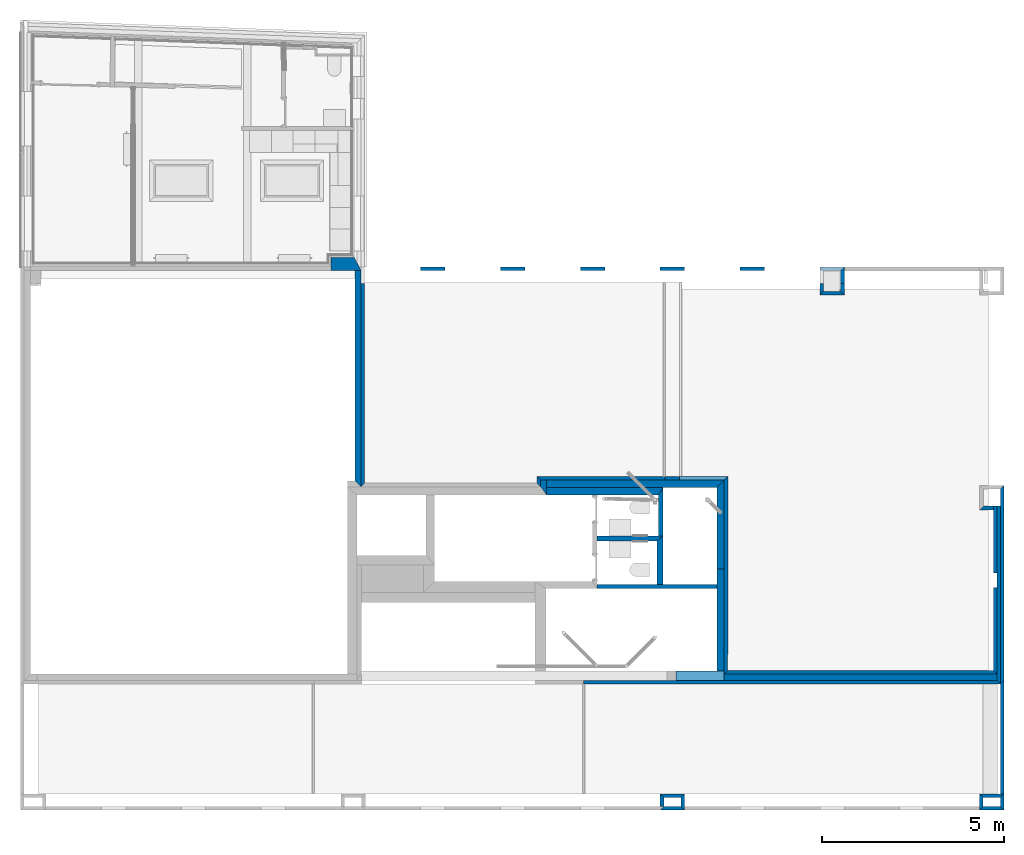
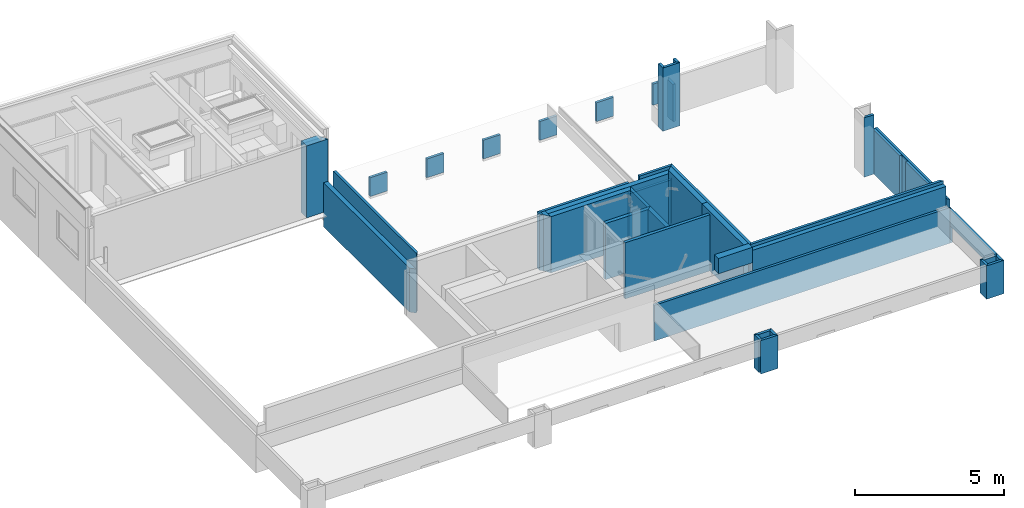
# One storey, part 3 of 23: 45 walls.
"""IFC2X3 building model written with IfcOpenShell, lengths in metres."""

import ifcopenshell
import ifcopenshell.guid

model = None  # the IFC model being written
_history = None  # IfcOwnerHistory: only IFC2X3 demands one
_inside = {}  # id of a spatial element -> (the spatial element, [elements in it])
_under = {}  # id of a project, library or spatial element -> (it, [spatial elements below it])
_declared = {}  # id of a project -> (the project, [libraries it declares])
_typed = {}  # id of a type object -> (the type object, [elements of that type])
_made_of = {}  # id of a material, layer set ... -> (it, [elements and type objects made of it])


def new_model(schema):
    """Start an empty IFC model of exactly this schema.

    Asked for "IFC4X3", IfcOpenShell would pick the latest addendum, in which some entities
    have other attributes; the version numbers below select the first issue.
    IFC2X3 requires an IfcOwnerHistory on every rooted entity: one is made here for all.
    """
    global model, _history
    if schema == "IFC4X3":
        model = ifcopenshell.file(schema_version=(4, 3, 0, 0))
    else:
        model = ifcopenshell.file(schema=schema)
    _inside.clear()
    _under.clear()
    _declared.clear()
    _typed.clear()
    _made_of.clear()
    _history = None
    if model.schema == "IFC2X3":
        org = make("IfcOrganization", Name="unknown")
        user = make(
            "IfcPersonAndOrganization",
            ThePerson=make("IfcPerson", FamilyName="unknown"),
            TheOrganization=org,
        )
        app = make(
            "IfcApplication",
            ApplicationDeveloper=org,
            Version="unknown",
            ApplicationFullName="unknown",
            ApplicationIdentifier="unknown",
        )
        _history = make(
            "IfcOwnerHistory",
            OwningUser=user,
            OwningApplication=app,
            ChangeAction="ADDED",
            CreationDate=0,
        )
    return model


def make(cls, **values):
    """One entity of the class cls with the attributes given. An attribute that is None is left unset."""
    return model.create_entity(
        cls, **{name: value for name, value in values.items() if value is not None}
    )


def entity(cls, *values):
    """Any entity or typed value of the class cls, its attributes in the order of the schema. None: left unset."""
    e = model.create_entity(cls)
    for i, value in enumerate(values):
        if value is not None:
            e[i] = value
    return e


def rooted(cls, **values):
    """An entity with a GlobalId (a new one), such as an element, a storey or a relation."""
    return make(cls, GlobalId=ifcopenshell.guid.new(), OwnerHistory=_history, **values)


def si_unit(unit_type, name, prefix=None):
    """IfcSIUnit, for example si_unit("LENGTHUNIT", "METRE", prefix="MILLI")."""
    return make("IfcSIUnit", UnitType=unit_type, Prefix=prefix, Name=name)


def converted_unit(unit_type, name, factor, base, dimensions=None, offset=None):
    """IfcConversionBasedUnit, such as the inch: factor (a typed value) times the base unit."""
    return make(
        "IfcConversionBasedUnit"
        if offset is None
        else "IfcConversionBasedUnitWithOffset",
        ConversionOffset=offset,
        Dimensions=None
        if dimensions is None
        else entity("IfcDimensionalExponents", *dimensions),
        UnitType=unit_type,
        Name=name,
        ConversionFactor=make(
            "IfcMeasureWithUnit", ValueComponent=factor, UnitComponent=base
        ),
    )


def derived_unit(unit_type, elements):
    """IfcDerivedUnit: a product of units, each with its exponent."""
    return make(
        "IfcDerivedUnit",
        Elements=[
            make("IfcDerivedUnitElement", Unit=unit, Exponent=power)
            for unit, power in elements
        ],
        UnitType=unit_type,
    )


def money_unit(currency):
    """IfcMonetaryUnit."""
    return make("IfcMonetaryUnit", Currency=currency)


def assignment(units):
    """IfcUnitAssignment: the units of a project."""
    return None if units is None else make("IfcUnitAssignment", Units=units)


def point(xyz):
    """IfcCartesianPoint."""
    return None if xyz is None else make("IfcCartesianPoint", Coordinates=xyz)


def direction(xyz):
    """IfcDirection."""
    return None if xyz is None else make("IfcDirection", DirectionRatios=xyz)


def frame(location, z_axis=None, x_axis=None):
    """IfcAxis2Placement3D, a coordinate frame: its origin and axes. An axis left out is left unset."""
    return make(
        "IfcAxis2Placement3D",
        Location=point(location),
        Axis=direction(z_axis),
        RefDirection=direction(x_axis),
    )


def frame_2d(location, x_axis=None):
    """IfcAxis2Placement2D, a coordinate frame in the plane: its origin and x axis."""
    return make(
        "IfcAxis2Placement2D", Location=point(location), RefDirection=direction(x_axis)
    )


def origin_with_axes():
    """The frame at (0, 0, 0) with the z axis (0, 0, 1) and the x axis (1, 0, 0) written out."""
    return frame((0.0, 0.0, 0.0), z_axis=(0.0, 0.0, 1.0), x_axis=(1.0, 0.0, 0.0))


def place(relative_to, where):
    """IfcLocalPlacement: puts the frame where relative to a parent placement (None: the world)."""
    return make(
        "IfcLocalPlacement", PlacementRelTo=relative_to, RelativePlacement=where
    )


def context(
    kind, dimensions, precision=None, world=None, true_north=None, identifier=None
):
    """IfcGeometricRepresentationContext, for example the 3D "Model" context."""
    return make(
        "IfcGeometricRepresentationContext",
        ContextIdentifier=identifier,
        ContextType=kind,
        CoordinateSpaceDimension=dimensions,
        Precision=precision,
        WorldCoordinateSystem=world,
        TrueNorth=true_north,
    )


def subcontext(parent, identifier, kind, view, scale=None):
    """IfcGeometricRepresentationSubContext, for example "Body" below "Model"."""
    return make(
        "IfcGeometricRepresentationSubContext",
        ContextIdentifier=identifier,
        ContextType=kind,
        ParentContext=parent,
        TargetScale=scale,
        TargetView=view,
    )


def project(units=None, contexts=None):
    """IfcProject with its units and contexts."""
    return rooted(
        "IfcProject",
        Name="project",
        RepresentationContexts=contexts,
        UnitsInContext=assignment(units),
    )


def spatial(cls, under=None, at=None, **own):
    """A site, building, storey or space (cls), placed at a placement, below another one or the project."""
    s = rooted(cls, ObjectPlacement=at, **own)
    if under is not None:
        _under.setdefault(under.id(), (under, []))[1].append(s)
    return s


def polyline(points):
    """IfcPolyline through the points."""
    return make("IfcPolyline", Points=[point(p) for p in points])


def profile(cls, at=None, kind="AREA", **sizes):
    """A parametric profile (cls). Its sizes go by their IFC names, for example OverallWidth=200.0."""
    return make(cls, ProfileType=kind, Position=at, **sizes)


def rectangle(**sizes):
    """IfcRectangleProfileDef."""
    return profile("IfcRectangleProfileDef", **sizes)


def outline(outer, holes=None, kind="AREA"):
    """IfcArbitraryClosedProfileDef: a profile drawn as a closed curve; with holes, ...WithVoids."""
    if holes is None:
        return make("IfcArbitraryClosedProfileDef", ProfileType=kind, OuterCurve=outer)
    return make(
        "IfcArbitraryProfileDefWithVoids",
        ProfileType=kind,
        OuterCurve=outer,
        InnerCurves=holes,
    )


def extrude(swept, where, along, depth):
    """IfcExtrudedAreaSolid: the profile swept, set in the frame where, extruded along a direction by depth."""
    return make(
        "IfcExtrudedAreaSolid",
        SweptArea=swept,
        Position=where,
        ExtrudedDirection=direction(along),
        Depth=depth,
    )


def shape(context_of_items, identifier, shape_type, items):
    """IfcShapeRepresentation: the items that make up one representation, for example the "Body"."""
    return make(
        "IfcShapeRepresentation",
        ContextOfItems=context_of_items,
        RepresentationIdentifier=identifier,
        RepresentationType=shape_type,
        Items=items,
    )


def material(Name=None, Category=None):
    """IfcMaterial."""
    return make("IfcMaterial", Name=Name, Category=Category)


def layer(
    of_material, thickness, ventilated=None, Name=None, Category=None, Priority=None
):
    """IfcMaterialLayer: one layer of a wall or slab, of a material (None: an air gap)."""
    return make(
        "IfcMaterialLayer",
        Material=of_material,
        LayerThickness=thickness,
        IsVentilated=ventilated,
        Name=Name,
        Category=Category,
        Priority=Priority,
    )


def layer_set(layers, Name=None):
    """IfcMaterialLayerSet."""
    return make("IfcMaterialLayerSet", MaterialLayers=layers, LayerSetName=Name)


def layer_usage(for_layer_set, set_direction, sense, offset, extent=None):
    """IfcMaterialLayerSetUsage: how a layer set lies in its element."""
    return make(
        "IfcMaterialLayerSetUsage",
        ForLayerSet=for_layer_set,
        LayerSetDirection=set_direction,
        DirectionSense=sense,
        OffsetFromReferenceLine=offset,
        ReferenceExtent=extent,
    )


def made_of(thing, what):
    """Note that an element or type object is made of a material, layer set ...; save() writes the relation."""
    if what is not None:
        _made_of.setdefault(what.id(), (what, []))[1].append(thing)
    return thing


def type_object(cls, material=None, **own):
    """A type object (cls), such as IfcWallType, which elements share."""
    return made_of(rooted(cls, **own), material)


def element(
    cls,
    number,
    at=None,
    inside=None,
    cuts=None,
    type_object=None,
    material=None,
    context=None,
    identifier="Body",
    shape_type=None,
    held_by="IfcProductDefinitionShape",
    body=None,
    shapes=None,
    **own,
):
    """One element of the class cls, such as IfcWall. Its Tag is "e" and its number.

    at: its placement. inside: the storey or other place that contains it. cuts: it is an
    opening in that element (IfcRelVoidsElement). A single representation is given by context,
    identifier, shape_type and body (its items); several are given by shapes. held_by: the class
    of the entity that holds the representations. save() writes the other relations.
    """
    e = rooted(cls, Tag="e%d" % number, ObjectPlacement=at, **own)
    if body is not None:
        shapes = [shape(context, identifier, shape_type, body)]
    if shapes is not None:
        e.Representation = make(held_by, Representations=shapes)
    if inside is not None:
        _inside.setdefault(inside.id(), (inside, []))[1].append(e)
    if cuts is not None:
        rooted(
            "IfcRelVoidsElement", RelatingBuildingElement=cuts, RelatedOpeningElement=e
        )
    if type_object is not None:
        _typed.setdefault(type_object.id(), (type_object, []))[1].append(e)
    return made_of(e, material)


def aggregate(whole, parts):
    """IfcRelAggregates: a whole, such as a stair, and the parts it consists of."""
    return rooted("IfcRelAggregates", RelatingObject=whole, RelatedObjects=parts)


def save(model, path):
    """Write the relations noted so far, then the file.

    IfcRelAggregates (storeys below a building ...), IfcRelContainedInSpatialStructure (elements
    in a storey), IfcRelDefinesByType, IfcRelAssociatesMaterial and IfcRelDeclares: one each for
    every whole, place, type object, material and project.
    """
    for whole, parts in _under.values():
        aggregate(whole, parts)
    for where, things in _inside.values():
        rooted(
            "IfcRelContainedInSpatialStructure",
            RelatedElements=things,
            RelatingStructure=where,
        )
    for kind, things in _typed.values():
        rooted("IfcRelDefinesByType", RelatedObjects=things, RelatingType=kind)
    for what, things in _made_of.values():
        rooted("IfcRelAssociatesMaterial", RelatedObjects=things, RelatingMaterial=what)
    for by, libraries in _declared.values():
        rooted("IfcRelDeclares", RelatingContext=by, RelatedDefinitions=libraries)
    model.write(path)


model = new_model("IFC2X3")

# Units and contexts
model_context = context("Model", 3, precision=1e-05, world=origin_with_axes(), true_north=direction((0.0, 1.0)))
body_context = subcontext(model_context, "Body", "Model", "MODEL_VIEW", scale=1.0)
ifc_project = project(units=[si_unit("LENGTHUNIT", "METRE"), si_unit("AREAUNIT", "SQUARE_METRE"), si_unit("VOLUMEUNIT", "CUBIC_METRE"), si_unit("ABSORBEDDOSEUNIT", "GRAY"), si_unit("AMOUNTOFSUBSTANCEUNIT", "MOLE"), si_unit("DOSEEQUIVALENTUNIT", "SIEVERT"), si_unit("ELECTRICCAPACITANCEUNIT", "FARAD"), si_unit("ELECTRICCHARGEUNIT", "COULOMB"), si_unit("ELECTRICCONDUCTANCEUNIT", "SIEMENS"), si_unit("ELECTRICCURRENTUNIT", "AMPERE"), si_unit("ELECTRICRESISTANCEUNIT", "OHM"), si_unit("ELECTRICVOLTAGEUNIT", "VOLT"), si_unit("ENERGYUNIT", "JOULE"), si_unit("FORCEUNIT", "NEWTON"), si_unit("FREQUENCYUNIT", "HERTZ"), si_unit("ILLUMINANCEUNIT", "LUX"), si_unit("INDUCTANCEUNIT", "HENRY"), si_unit("LUMINOUSFLUXUNIT", "LUMEN"), si_unit("LUMINOUSINTENSITYUNIT", "CANDELA"), si_unit("MAGNETICFLUXDENSITYUNIT", "TESLA"), si_unit("MAGNETICFLUXUNIT", "WEBER"), si_unit("MASSUNIT", "GRAM"), converted_unit("PLANEANGLEUNIT", "degree", entity("IfcReal", 0.0174532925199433), si_unit("PLANEANGLEUNIT", "RADIAN"), dimensions=[0, 0, 0, 0, 0, 0, 0]), si_unit("POWERUNIT", "WATT"), si_unit("PRESSUREUNIT", "PASCAL"), si_unit("RADIOACTIVITYUNIT", "BECQUEREL"), si_unit("SOLIDANGLEUNIT", "STERADIAN"), si_unit("THERMODYNAMICTEMPERATUREUNIT", "KELVIN"), si_unit("TIMEUNIT", "SECOND"), derived_unit("ACCELERATIONUNIT", [(si_unit("LENGTHUNIT", "METRE"), 1), (si_unit("TIMEUNIT", "SECOND"), -2)]), derived_unit("ANGULARVELOCITYUNIT", [(converted_unit("PLANEANGLEUNIT", "degree", entity("IfcReal", 0.0174532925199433), si_unit("PLANEANGLEUNIT", "RADIAN"), dimensions=[0, 0, 0, 0, 0, 0, 0]), 1), (si_unit("TIMEUNIT", "SECOND"), -1)]), derived_unit("CURVATUREUNIT", [(converted_unit("PLANEANGLEUNIT", "degree", entity("IfcReal", 0.0174532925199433), si_unit("PLANEANGLEUNIT", "RADIAN"), dimensions=[0, 0, 0, 0, 0, 0, 0]), 1), (si_unit("LENGTHUNIT", "METRE"), -1)]), derived_unit("DYNAMICVISCOSITYUNIT", [(si_unit("PRESSUREUNIT", "PASCAL"), 1), (si_unit("TIMEUNIT", "SECOND"), 1)]), derived_unit("HEATFLUXDENSITYUNIT", [(si_unit("POWERUNIT", "WATT"), 1), (si_unit("LENGTHUNIT", "METRE"), -2)]), derived_unit("HEATINGVALUEUNIT", [(si_unit("ENERGYUNIT", "JOULE"), 1), (si_unit("MASSUNIT", "GRAM"), -1)]), derived_unit("INTEGERCOUNTRATEUNIT", [(si_unit("TIMEUNIT", "SECOND"), -1)]), derived_unit("IONCONCENTRATIONUNIT", [(si_unit("MASSUNIT", "GRAM"), 1), (si_unit("VOLUMEUNIT", "CUBIC_METRE"), -1)]), derived_unit("ISOTHERMALMOISTURECAPACITYUNIT", [(si_unit("VOLUMEUNIT", "CUBIC_METRE"), 1), (si_unit("MASSUNIT", "GRAM"), -1)]), derived_unit("KINEMATICVISCOSITYUNIT", [(si_unit("AREAUNIT", "SQUARE_METRE"), 1), (si_unit("TIMEUNIT", "SECOND"), -1)]), derived_unit("LINEARFORCEUNIT", [(si_unit("FORCEUNIT", "NEWTON"), 1), (si_unit("LENGTHUNIT", "METRE"), -1)]), derived_unit("LINEARMOMENTUNIT", [(si_unit("FORCEUNIT", "NEWTON"), 1), (si_unit("LENGTHUNIT", "METRE"), -1)]), derived_unit("LINEARSTIFFNESSUNIT", [(si_unit("FORCEUNIT", "NEWTON"), 1), (si_unit("LENGTHUNIT", "METRE"), -1)]), derived_unit("LINEARVELOCITYUNIT", [(si_unit("LENGTHUNIT", "METRE"), 1), (si_unit("TIMEUNIT", "SECOND"), -1)]), derived_unit("LUMINOUSINTENSITYDISTRIBUTIONUNIT", [(si_unit("LUMINOUSINTENSITYUNIT", "CANDELA"), 1), (si_unit("LUMINOUSFLUXUNIT", "LUMEN"), -1)]), derived_unit("MASSDENSITYUNIT", [(si_unit("MASSUNIT", "GRAM"), 1), (si_unit("VOLUMEUNIT", "CUBIC_METRE"), -1)]), derived_unit("MASSFLOWRATEUNIT", [(si_unit("MASSUNIT", "GRAM"), 1), (si_unit("TIMEUNIT", "SECOND"), -1)]), derived_unit("MASSPERLENGTHUNIT", [(si_unit("MASSUNIT", "GRAM"), 1), (si_unit("LENGTHUNIT", "METRE"), -1)]), derived_unit("MODULUSOFELASTICITYUNIT", [(si_unit("FORCEUNIT", "NEWTON"), 1), (si_unit("AREAUNIT", "SQUARE_METRE"), -1)]), derived_unit("MODULUSOFLINEARSUBGRADEREACTIONUNIT", [(si_unit("FORCEUNIT", "NEWTON"), 1), (si_unit("LENGTHUNIT", "METRE"), -2)]), derived_unit("MODULUSOFROTATIONALSUBGRADEREACTIONUNIT", [(si_unit("FORCEUNIT", "NEWTON"), 1), (si_unit("LENGTHUNIT", "METRE"), 1)]), derived_unit("MODULUSOFSUBGRADEREACTIONUNIT", [(si_unit("FORCEUNIT", "NEWTON"), 1), (si_unit("VOLUMEUNIT", "CUBIC_METRE"), -1)]), derived_unit("MOISTUREDIFFUSIVITYUNIT", [(si_unit("VOLUMEUNIT", "CUBIC_METRE"), 1), (si_unit("TIMEUNIT", "SECOND"), -1)]), derived_unit("MOLECULARWEIGHTUNIT", [(si_unit("MASSUNIT", "GRAM"), 1), (si_unit("AMOUNTOFSUBSTANCEUNIT", "MOLE"), -1)]), derived_unit("PLANARFORCEUNIT", [(si_unit("FORCEUNIT", "NEWTON"), 1), (si_unit("LENGTHUNIT", "METRE"), -2)]), derived_unit("ROTATIONALFREQUENCYUNIT", [(si_unit("TIMEUNIT", "SECOND"), -1)]), derived_unit("ROTATIONALMASSUNIT", [(si_unit("MASSUNIT", "GRAM"), 1), (si_unit("LENGTHUNIT", "METRE"), 2)]), derived_unit("ROTATIONALSTIFFNESSUNIT", [(si_unit("FORCEUNIT", "NEWTON"), 1), (si_unit("LENGTHUNIT", "METRE"), 1), (converted_unit("PLANEANGLEUNIT", "degree", entity("IfcReal", 0.0174532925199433), si_unit("PLANEANGLEUNIT", "RADIAN"), dimensions=[0, 0, 0, 0, 0, 0, 0]), -1)]), derived_unit("SECTIONAREAINTEGRALUNIT", [(si_unit("LENGTHUNIT", "METRE"), 5)]), derived_unit("SECTIONMODULUSUNIT", [(si_unit("LENGTHUNIT", "METRE"), 3)]), derived_unit("SHEARMODULUSUNIT", [(si_unit("FORCEUNIT", "NEWTON"), 1), (si_unit("AREAUNIT", "SQUARE_METRE"), -1)]), derived_unit("SOUNDPOWERUNIT", [(si_unit("ENERGYUNIT", "JOULE"), 1), (si_unit("TIMEUNIT", "SECOND"), -1)]), derived_unit("SPECIFICHEATCAPACITYUNIT", [(si_unit("FORCEUNIT", "NEWTON"), 1), (si_unit("MASSUNIT", "GRAM"), -1), (si_unit("THERMODYNAMICTEMPERATUREUNIT", "KELVIN"), -1)]), derived_unit("TEMPERATUREGRADIENTUNIT", [(si_unit("THERMODYNAMICTEMPERATUREUNIT", "KELVIN"), 1), (si_unit("LENGTHUNIT", "METRE"), -1)]), derived_unit("THERMALADMITTANCEUNIT", [(si_unit("POWERUNIT", "WATT"), 1), (si_unit("AREAUNIT", "SQUARE_METRE"), -1), (si_unit("THERMODYNAMICTEMPERATUREUNIT", "KELVIN"), -1)]), derived_unit("THERMALCONDUCTANCEUNIT", [(si_unit("POWERUNIT", "WATT"), 1), (si_unit("LENGTHUNIT", "METRE"), -1), (si_unit("THERMODYNAMICTEMPERATUREUNIT", "KELVIN"), -1)]), derived_unit("THERMALEXPANSIONCOEFFICIENTUNIT", [(si_unit("THERMODYNAMICTEMPERATUREUNIT", "KELVIN"), -1)]), derived_unit("THERMALRESISTANCEUNIT", [(si_unit("AREAUNIT", "SQUARE_METRE"), 1), (si_unit("POWERUNIT", "WATT"), -1)]), derived_unit("THERMALTRANSMITTANCEUNIT", [(si_unit("POWERUNIT", "WATT"), 1), (si_unit("AREAUNIT", "SQUARE_METRE"), -1), (si_unit("THERMODYNAMICTEMPERATUREUNIT", "KELVIN"), -1)]), derived_unit("TORQUEUNIT", [(si_unit("FORCEUNIT", "NEWTON"), 1), (si_unit("LENGTHUNIT", "METRE"), 1)]), derived_unit("VAPORPERMEABILITYUNIT", [(si_unit("MASSUNIT", "GRAM"), 1), (si_unit("TIMEUNIT", "SECOND"), -1)]), derived_unit("VOLUMETRICFLOWRATEUNIT", [(si_unit("VOLUMEUNIT", "CUBIC_METRE"), 1), (si_unit("TIMEUNIT", "SECOND"), -1)]), derived_unit("WARPINGCONSTANTUNIT", [(si_unit("LENGTHUNIT", "METRE"), 6)]), derived_unit("WARPINGMOMENTUNIT", [(si_unit("FORCEUNIT", "NEWTON"), 1), (si_unit("LENGTHUNIT", "METRE"), 2)]), money_unit("GBP")], contexts=[model_context])

# Site, building, storey
site_placement = place(None, origin_with_axes())
site = spatial("IfcSite", under=ifc_project, at=site_placement, Name="Site", CompositionType="ELEMENT")
building_placement = place(site_placement, origin_with_axes())
building = spatial("IfcBuilding", under=site, at=building_placement, Name="Building01", CompositionType="ELEMENT")
storey_placement = place(building_placement, frame((0.0, 0.0, 2.6), z_axis=(0.0, 0.0, 1.0), x_axis=(1.0, 0.0, 0.0)))
storey = spatial("IfcBuildingStorey", under=building, at=storey_placement, Name="MF", CompositionType="ELEMENT", Elevation=2.6)

# Walls
ifc_material_1 = material(Name="A_BSUK_WallsExternal_Brick")
ifc_layer_1 = layer(ifc_material_1, 0.1, ventilated=False)
ifc_layer_set_1 = layer_set([ifc_layer_1])
ifc_layer_usage_1 = layer_usage(ifc_layer_set_1, "AXIS2", "POSITIVE", 0.0)
wall_type_1 = type_object("IfcWallType", Name="A-Walls-ExternalBrick", PredefinedType="NOTDEFINED")
wall_1_placement = place(storey_placement, frame((26.31, -0.000988, 0.0), z_axis=(0.0, 0.0, 1.0), x_axis=(1.0, 0.0, 0.0)))
element("IfcWallStandardCase", 1, at=wall_1_placement, inside=storey, type_object=wall_type_1, material=ifc_layer_usage_1, Name="A-Walls-ExternalBrick", ObjectType="A-Walls-ExternalBrick", context=body_context, shape_type="SweptSolid", body=[
    extrude(outline(polyline([(0.571155, 0.1), (0.1, 0.1), (0.0, 0.0), (0.671155, 0.0), (0.571155, 0.1)])), origin_with_axes(), (0.0, 0.0, 1.0), 1.37),
])
wall_2_placement = place(storey_placement, frame((26.981155, -0.000988, 0.0), z_axis=(0.0, 0.0, 1.0), x_axis=(0.0, 1.0, 0.0)))
element("IfcWallStandardCase", 2, at=wall_2_placement, inside=storey, type_object=wall_type_1, material=ifc_layer_usage_1, Name="A-Walls-ExternalBrick", ObjectType="A-Walls-ExternalBrick", context=body_context, shape_type="SweptSolid", body=[
    extrude(outline(polyline([(0.349667, 0.1), (0.1, 0.1), (0.0, 0.0), (0.449667, 0.0), (0.349667, 0.1)])), origin_with_axes(), (0.0, 0.0, 1.0), 1.37),
])
wall_3_placement = place(storey_placement, frame((26.981155, 0.448679, 0.0), z_axis=(0.0, 0.0, 1.0), x_axis=(-1.0, 0.0, 0.0)))
element("IfcWallStandardCase", 3, at=wall_3_placement, inside=storey, type_object=wall_type_1, material=ifc_layer_usage_1, Name="A-Walls-ExternalBrick", ObjectType="A-Walls-ExternalBrick", context=body_context, shape_type="SweptSolid", body=[
    extrude(outline(polyline([(0.571155, 0.1), (0.1, 0.1), (0.0, 0.0), (0.671155, 0.0), (0.571155, 0.1)])), origin_with_axes(), (0.0, 0.0, 1.0), 1.37),
])
wall_4_placement = place(storey_placement, frame((26.31, 0.448679, 0.0), z_axis=(0.0, 0.0, 1.0), x_axis=(0.0, -1.0, 0.0)))
element("IfcWallStandardCase", 4, at=wall_4_placement, inside=storey, type_object=wall_type_1, material=ifc_layer_usage_1, Name="A-Walls-ExternalBrick", ObjectType="A-Walls-ExternalBrick", context=body_context, shape_type="SweptSolid", body=[
    extrude(outline(polyline([(0.349667, 0.1), (0.1, 0.1), (0.0, 0.0), (0.449667, 0.0), (0.349667, 0.1)])), origin_with_axes(), (0.0, 0.0, 1.0), 1.37),
])
wall_5_placement = place(storey_placement, frame((21.93, 14.9, 0.499759), z_axis=(0.0, 0.0, 1.0), x_axis=(1.0, 0.0, 0.0)))
element("IfcWallStandardCase", 5, at=wall_5_placement, inside=storey, type_object=wall_type_1, material=ifc_layer_usage_1, Name="A-Walls-ExternalBrick", ObjectType="A-Walls-ExternalBrick", context=body_context, shape_type="SweptSolid", body=[
    extrude(rectangle(XDim=0.67, YDim=0.1, at=frame_2d((0.335, -0.05), x_axis=(1.0, 0.0))), origin_with_axes(), (0.0, 0.0, 1.0), 0.870241),
])
for number, where, z_axis, x_axis, name in (
    (6, (19.74, 14.9, 0.599759), (0.0, 0.0, 1.0), (1.0, 0.0, 0.0), "A-Walls-ExternalBrick"),
    (7, (17.55, 14.9, 0.599759), (0.0, 0.0, 1.0), (1.0, 0.0, 0.0), "A-Walls-ExternalBrick"),
    (8, (15.36, 14.9, 0.599759), (0.0, 0.0, 1.0), (1.0, 0.0, 0.0), "A-Walls-ExternalBrick"),
    (9, (13.17, 14.9, 0.599759), (0.0, 0.0, 1.0), (1.0, 0.0, 0.0), "A-Walls-ExternalBrick"),
    (10, (10.98, 14.9, 0.599759), (0.0, 0.0, 1.0), (1.0, 0.0, 0.0), "A-Walls-ExternalBrick"),
):
    element("IfcWallStandardCase", number, at=place(storey_placement, frame(where, z_axis=z_axis, x_axis=x_axis)), inside=storey, type_object=wall_type_1, material=ifc_layer_usage_1, Name=name, ObjectType="A-Walls-ExternalBrick", context=body_context, shape_type="SweptSolid", body=[
        extrude(rectangle(XDim=0.67, YDim=0.1, at=frame_2d((0.335, -0.05), x_axis=(1.0, 0.0))), origin_with_axes(), (0.0, 0.0, 1.0), 0.770241),
    ])
wall_6_placement = place(storey_placement, frame((26.314179, 8.237758, 0.0), z_axis=(0.0, 0.0, 1.0), x_axis=(1.0, 0.0, 0.0)))
element("IfcWallStandardCase", 11, at=wall_6_placement, inside=storey, type_object=wall_type_1, material=ifc_layer_usage_1, Name="A-Walls-ExternalBrick", ObjectType="A-Walls-ExternalBrick", context=body_context, shape_type="SweptSolid", body=[
    extrude(outline(polyline([(0.381054, 0.1), (0.1, 0.1), (0.0, 0.0), (0.38105, 0.0), (0.381054, 0.1)])), origin_with_axes(), (0.0, 0.0, 1.0), 2.43),
])
wall_7_placement = place(storey_placement, frame((26.981285, 3.459332, 0.0), z_axis=(0.0, 0.0, 1.0), x_axis=(0.0, 1.0, 0.0)))
element("IfcWallStandardCase", 12, at=wall_7_placement, inside=storey, type_object=wall_type_1, material=ifc_layer_usage_1, Name="A-Walls-ExternalBrick", ObjectType="A-Walls-ExternalBrick", context=body_context, shape_type="SweptSolid", body=[
    extrude(outline(polyline([(5.350199, 0.1), (0.0, 0.1), (0.0, 0.0), (5.450199, 0.0), (5.350199, 0.1)])), origin_with_axes(), (0.0, 0.0, 1.0), 1.37),
])
wall_8_placement = place(storey_placement, frame((26.881639, 3.459332, 0.725), z_axis=(0.0, 0.0, 1.0), x_axis=(0.0, -1.0, 0.0)))
element("IfcWallStandardCase", 13, at=wall_8_placement, inside=storey, type_object=wall_type_1, material=ifc_layer_usage_1, Name="A-Walls-ExternalBrick", ObjectType="A-Walls-ExternalBrick", context=body_context, shape_type="SweptSolid", body=[
    extrude(outline(polyline([(-0.1, 0.1), (0.0, 0.0), (3.010653, 0.0), (3.010653, 0.1), (-0.1, 0.1)])), origin_with_axes(), (0.0, 0.0, 1.0), 0.645),
])
wall_9_placement = place(storey_placement, frame((9.343038, 14.45, 0.0), z_axis=(0.0, 0.0, 1.0), x_axis=(0.0, -1.0, 0.0)))
element("IfcWallStandardCase", 14, at=wall_9_placement, inside=storey, type_object=wall_type_1, material=ifc_layer_usage_1, Name="A-Walls-ExternalBrick", ObjectType="A-Walls-ExternalBrick", context=body_context, shape_type="SweptSolid", body=[
    extrude(outline(polyline([(5.478477, 0.1), (0.0, 0.1), (0.0, 0.0), (5.578473, 0.0), (5.478477, 0.1)])), origin_with_axes(), (0.0, 0.0, 1.0), 2.43),
])
wall_10_placement = place(storey_placement, frame((21.930008, 14.134296, -0.16), z_axis=(0.0, 0.0, 1.0), x_axis=(1.0, 0.0, 0.0)))
element("IfcWallStandardCase", 15, at=wall_10_placement, inside=storey, type_object=wall_type_1, material=ifc_layer_usage_1, Name="A-Walls-ExternalBrick", ObjectType="A-Walls-ExternalBrick", context=body_context, shape_type="SweptSolid", body=[
    extrude(outline(polyline([(0.569979, 0.1), (0.100006, 0.1), (0.0, 0.0), (0.669985, 0.0), (0.569979, 0.1)])), origin_with_axes(), (0.0, 0.0, 1.0), 2.59),
])
wall_11_placement = place(storey_placement, frame((21.930026, 14.449011, -0.16), z_axis=(0.0, 0.0, 1.0), x_axis=(-5.782e-05, -1.0, 0.0)))
element("IfcWallStandardCase", 16, at=wall_11_placement, inside=storey, type_object=wall_type_1, material=ifc_layer_usage_1, Name="A-Walls-ExternalBrick", ObjectType="A-Walls-ExternalBrick", context=body_context, shape_type="SweptSolid", body=[
    extrude(outline(polyline([(0.214709, 0.1), (0.0, 0.1), (0.0, 0.0), (0.314715, 0.0), (0.214709, 0.1)])), origin_with_axes(), (0.0, 0.0, 1.0), 2.59),
])
wall_12_placement = place(storey_placement, frame((22.599974, 14.449011, -0.16), z_axis=(0.0, 0.0, 1.0), x_axis=(5.782e-05, -1.0, 0.0)))
element("IfcWallStandardCase", 17, at=wall_12_placement, inside=storey, type_object=wall_type_1, material=ifc_layer_usage_1, Name="A-Walls-ExternalBrick", ObjectType="A-Walls-ExternalBrick", context=body_context, shape_type="SweptSolid", body=[
    extrude(outline(polyline([(0.314715, 0.0), (0.0, 0.0), (0.0, -0.1), (0.214709, -0.1), (0.314715, 0.0)])), origin_with_axes(), (0.0, 0.0, 1.0), 2.59),
])
wall_13_placement = place(storey_placement, frame((22.599974, 14.449011, -0.16), z_axis=(0.0, 0.0, 1.0), x_axis=(5.782e-05, 1.0, 0.0)))
element("IfcWallStandardCase", 18, at=wall_13_placement, inside=storey, type_object=wall_type_1, material=ifc_layer_usage_1, Name="A-Walls-ExternalBrick", ObjectType="A-Walls-ExternalBrick", context=body_context, shape_type="SweptSolid", body=[
    extrude(outline(polyline([(0.348155, 0.1), (0.0, 0.1), (0.0, 0.0), (0.448161, 0.0), (0.348155, 0.1)])), origin_with_axes(), (0.0, 0.0, 1.0), 1.53),
])
wall_14_placement = place(storey_placement, frame((26.881285, 3.459332, 0.0), z_axis=(0.0, 0.0, 1.0), x_axis=(-1.0, 0.0, 0.0)))
element("IfcWallStandardCase", 19, at=wall_14_placement, inside=storey, type_object=wall_type_1, material=ifc_layer_usage_1, Name="A-Walls-ExternalBrick", ObjectType="A-Walls-ExternalBrick", context=body_context, shape_type="SweptSolid", body=[
    extrude(rectangle(XDim=11.442424, YDim=0.1, at=frame_2d((5.721212, -0.05), x_axis=(-1.0, 0.0))), origin_with_axes(), (0.0, 0.0, 1.0), 1.46),
])
wall_15_placement = place(storey_placement, frame((18.22, -0.000329, 0.0), z_axis=(0.0, 0.0, 1.0), x_axis=(0.0, 1.0, 0.0)))
element("IfcWallStandardCase", 20, at=wall_15_placement, inside=storey, type_object=wall_type_1, material=ifc_layer_usage_1, Name="A-Walls-ExternalBrick", ObjectType="A-Walls-ExternalBrick", context=body_context, shape_type="SweptSolid", body=[
    extrude(outline(polyline([(0.349667, 0.1), (0.1, 0.1), (0.0, 0.0), (0.449667, 0.0), (0.349667, 0.1)])), origin_with_axes(), (0.0, 0.0, 1.0), 1.37),
])
wall_16_placement = place(storey_placement, frame((17.55, -0.000329, 0.0), z_axis=(0.0, 0.0, 1.0), x_axis=(1.0, 0.0, 0.0)))
element("IfcWallStandardCase", 21, at=wall_16_placement, inside=storey, type_object=wall_type_1, material=ifc_layer_usage_1, Name="A-Walls-ExternalBrick", ObjectType="A-Walls-ExternalBrick", context=body_context, shape_type="SweptSolid", body=[
    extrude(outline(polyline([(0.57, 0.1), (0.1, 0.1), (0.0, 0.0), (0.67, 0.0), (0.57, 0.1)])), origin_with_axes(), (0.0, 0.0, 1.0), 1.37),
])
wall_17_placement = place(storey_placement, frame((17.55, 0.449338, 0.0), z_axis=(0.0, 0.0, 1.0), x_axis=(0.0, -1.0, 0.0)))
element("IfcWallStandardCase", 22, at=wall_17_placement, inside=storey, type_object=wall_type_1, material=ifc_layer_usage_1, Name="A-Walls-ExternalBrick", ObjectType="A-Walls-ExternalBrick", context=body_context, shape_type="SweptSolid", body=[
    extrude(outline(polyline([(0.349338, 0.1), (0.1, 0.1), (0.0, 0.0), (0.349338, 0.0), (0.349338, 0.1)])), origin_with_axes(), (0.0, 0.0, 1.0), 1.37),
])
wall_18_placement = place(storey_placement, frame((18.22, 0.449338, 0.0), z_axis=(0.0, 0.0, 1.0), x_axis=(-1.0, 0.0, 0.0)))
element("IfcWallStandardCase", 23, at=wall_18_placement, inside=storey, type_object=wall_type_1, material=ifc_layer_usage_1, Name="A-Walls-ExternalBrick", ObjectType="A-Walls-ExternalBrick", context=body_context, shape_type="SweptSolid", body=[
    extrude(outline(polyline([(0.57, 0.1), (0.1, 0.1), (0.0, 0.0), (0.67, 0.0), (0.57, 0.1)])), origin_with_axes(), (0.0, 0.0, 1.0), 1.37),
])
ifc_material_2 = material(Name="A_BSUK_WallsExternal_Block")
ifc_layer_2 = layer(ifc_material_2, 0.086, ventilated=False)
ifc_layer_set_2 = layer_set([ifc_layer_2])
ifc_layer_usage_2 = layer_usage(ifc_layer_set_2, "AXIS2", "POSITIVE", 0.0)
wall_type_2 = type_object("IfcWallType", Name="A-Walls-ExternalBlock", PredefinedType="NOTDEFINED")
wall_19_placement = place(storey_placement, frame((26.881285, 3.459332, 0.0), z_axis=(0.0, 0.0, 1.0), x_axis=(0.0, 1.0, 0.0)))
element("IfcWallStandardCase", 24, at=wall_19_placement, inside=storey, type_object=wall_type_2, material=ifc_layer_usage_2, Name="A-Walls-ExternalBlock", ObjectType="A-Walls-ExternalBlock", context=body_context, shape_type="SweptSolid", body=[
    extrude(outline(polyline([(0.1, 0.086), (0.0, 0.0), (4.878426, 0.0), (4.878426, 0.086), (0.1, 0.086)])), origin_with_axes(), (0.0, 0.0, 1.0), 1.8),
])
ifc_layer_3 = layer(ifc_material_2, 0.175, ventilated=False)
ifc_layer_set_3 = layer_set([ifc_layer_3])
ifc_layer_usage_3 = layer_usage(ifc_layer_set_3, "AXIS2", "POSITIVE", 0.0)
wall_20_placement = place(storey_placement, frame((19.302772, 3.558962, 0.0), z_axis=(0.0, 0.0, 1.0), x_axis=(1.0, 0.0, 0.0)))
element("IfcWallStandardCase", 25, at=wall_20_placement, inside=storey, type_object=wall_type_2, material=ifc_layer_usage_3, Name="A-Walls-ExternalBlock", ObjectType="A-Walls-ExternalBlock", context=body_context, shape_type="SweptSolid", body=[
    extrude(rectangle(XDim=7.492513, YDim=0.175, at=frame_2d((3.746257, 0.0875), x_axis=(-1.0, 0.0))), origin_with_axes(), (0.0, 0.0, 1.0), 2.3),
])
ifc_layer_4 = layer(ifc_material_2, 0.199996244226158, ventilated=False)
ifc_layer_set_4 = layer_set([ifc_layer_4])
ifc_layer_usage_4 = layer_usage(ifc_layer_set_4, "AXIS2", "POSITIVE", 0.0)
wall_21_placement = place(storey_placement, frame((19.302772, 3.823962, 0.0), z_axis=(0.0, 0.0, 1.0), x_axis=(0.0, 1.0, 0.0)))
element("IfcWallStandardCase", 26, at=wall_21_placement, inside=storey, type_object=wall_type_2, material=ifc_layer_usage_4, Name="A-Walls-ExternalBlock", ObjectType="A-Walls-ExternalBlock", context=body_context, shape_type="SweptSolid", body=[
    extrude(rectangle(XDim=0.199996, YDim=2.786976, at=frame_2d((1.393488, 0.099998), x_axis=(0.0, -1.0))), origin_with_axes(), (0.0, 0.0, 1.0), 2.43),
])
ifc_layer_5 = layer(ifc_material_2, 0.200191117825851, ventilated=False)
ifc_layer_set_5 = layer_set([ifc_layer_5])
ifc_layer_usage_5 = layer_usage(ifc_layer_set_5, "AXIS2", "POSITIVE", 0.0)
wall_22_placement = place(storey_placement, frame((19.302967, 6.610938, 0.0), z_axis=(0.0, 0.0, 1.0), x_axis=(0.0, 1.0, 0.0)))
element("IfcWallStandardCase", 27, at=wall_22_placement, inside=storey, type_object=wall_type_2, material=ifc_layer_usage_5, Name="A-Walls-ExternalBlock", ObjectType="A-Walls-ExternalBlock", context=body_context, shape_type="SweptSolid", body=[
    extrude(outline(polyline([(2.241917, 0.200191), (0.0, 0.200191), (0.0, 0.0), (2.442209, 0.0), (2.241917, 0.200191)])), origin_with_axes(), (0.0, 0.0, 1.0), 2.43),
])
ifc_layer_6 = layer(ifc_material_2, 0.2002919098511, ventilated=False)
ifc_layer_set_6 = layer_set([ifc_layer_6])
ifc_layer_usage_6 = layer_usage(ifc_layer_set_6, "AXIS2", "POSITIVE", 0.0)
wall_23_placement = place(storey_placement, frame((14.43135, 8.852854, 0.0), z_axis=(0.0, 0.0, 1.0), x_axis=(1.0, 0.0, 0.0)))
element("IfcWallStandardCase", 28, at=wall_23_placement, inside=storey, type_object=wall_type_2, material=ifc_layer_usage_6, Name="A-Walls-ExternalBlock", ObjectType="A-Walls-ExternalBlock", context=body_context, shape_type="SweptSolid", body=[
    extrude(outline(polyline([(4.871617, 0.200292), (0.0, 0.200292), (0.0, 0.0), (4.671426, 0.0), (4.871617, 0.200292)])), origin_with_axes(), (0.0, 0.0, 1.0), 2.3),
])
ifc_layer_7 = layer(ifc_material_2, 0.159, ventilated=False)
ifc_layer_set_7 = layer_set([ifc_layer_7])
ifc_layer_usage_7 = layer_usage(ifc_layer_set_7, "AXIS2", "POSITIVE", 0.0)
wall_24_placement = place(storey_placement, frame((14.27235, 9.053146, 0.0), z_axis=(0.0, 0.0, 1.0), x_axis=(0.0, -1.0, 0.0)))
element("IfcWallStandardCase", 29, at=wall_24_placement, inside=storey, type_object=wall_type_2, material=ifc_layer_usage_7, Name="A-Walls-ExternalBlock", ObjectType="A-Walls-ExternalBlock", context=body_context, shape_type="SweptSolid", body=[
    extrude(outline(polyline([(0.405736, 0.159), (0.0, 0.159), (0.0, 0.0), (0.181736, 0.0), (0.405736, 0.159)])), origin_with_axes(), (0.0, 0.0, 1.0), 2.3),
])
ifc_layer_8 = layer(ifc_material_2, 0.17, ventilated=False)
ifc_layer_set_8 = layer_set([ifc_layer_8])
ifc_layer_usage_8 = layer_usage(ifc_layer_set_8, "AXIS2", "POSITIVE", 0.0)
wall_25_placement = place(storey_placement, frame((9.173127, 14.799918, 0.0), z_axis=(0.0, 0.0, 1.0), x_axis=(0.0, -1.0, 0.0)))
element("IfcWallStandardCase", 30, at=wall_25_placement, inside=storey, type_object=wall_type_2, material=ifc_layer_usage_8, Name="A-Walls-ExternalBlock", ObjectType="A-Walls-ExternalBlock", context=body_context, shape_type="SweptSolid", body=[
    extrude(outline(polyline([(5.928777, 0.17), (0.0, 0.17), (0.0, 0.0), (5.764777, 0.0), (5.928777, 0.17)])), origin_with_axes(), (0.0, 0.0, 1.0), 1.8),
])
ifc_layer_9 = layer(ifc_material_2, 0.205, ventilated=False)
ifc_layer_set_9 = layer_set([ifc_layer_9])
ifc_layer_usage_9 = layer_usage(ifc_layer_set_9, "AXIS2", "POSITIVE", 0.0)
wall_26_placement = place(storey_placement, frame((14.43135, 8.64741, 0.0), z_axis=(0.0, 0.0, 1.0), x_axis=(1.0, 0.0, 0.0)))
element("IfcWallStandardCase", 31, at=wall_26_placement, inside=storey, type_object=wall_type_2, material=ifc_layer_usage_9, Name="A-Walls-ExternalBlock", ObjectType="A-Walls-ExternalBlock", context=body_context, shape_type="SweptSolid", body=[
    extrude(outline(polyline([(3.195596, 0.205), (0.0, 0.205), (0.0, 0.0), (3.075596, 0.0), (3.195596, 0.205)])), origin_with_axes(), (0.0, 0.0, 1.0), 2.3),
])
ifc_layer_10 = layer(ifc_material_2, 0.12, ventilated=False)
ifc_layer_set_10 = layer_set([ifc_layer_10])
ifc_layer_usage_10 = layer_usage(ifc_layer_set_10, "AXIS2", "POSITIVE", 0.0)
wall_27_placement = place(storey_placement, frame((15.816265, 6.076984, 0.0), z_axis=(0.0, 0.0, 1.0), x_axis=(1.0, 0.0, 0.0)))
element("IfcWallStandardCase", 32, at=wall_27_placement, inside=storey, type_object=wall_type_2, material=ifc_layer_usage_10, Name="A-Walls-ExternalBlock", ObjectType="A-Walls-ExternalBlock", context=body_context, shape_type="SweptSolid", body=[
    extrude(rectangle(XDim=3.286511, YDim=0.12, at=frame_2d((1.643255, 0.06), x_axis=(-1.0, 0.0))), origin_with_axes(), (0.0, 0.0, 1.0), 2.3),
])
ifc_layer_11 = layer(ifc_material_2, 0.167, ventilated=False)
ifc_layer_set_11 = layer_set([ifc_layer_11])
ifc_layer_usage_11 = layer_usage(ifc_layer_set_11, "AXIS2", "POSITIVE", 0.0)
wall_28_placement = place(storey_placement, frame((17.626946, 6.196984, 0.0), z_axis=(0.0, 0.0, 1.0), x_axis=(0.0, 1.0, 0.0)))
element("IfcWallStandardCase", 33, at=wall_28_placement, inside=storey, type_object=wall_type_2, material=ifc_layer_usage_11, Name="A-Walls-ExternalBlock", ObjectType="A-Walls-ExternalBlock", context=body_context, shape_type="SweptSolid", body=[
    extrude(outline(polyline([(1.185935, 0.167), (0.0, 0.167), (0.0, 0.0), (1.322935, 0.0), (1.185935, 0.167)])), origin_with_axes(), (0.0, 0.0, 1.0), 2.3),
])
ifc_layer_12 = layer(ifc_material_2, 0.137, ventilated=False)
ifc_layer_set_12 = layer_set([ifc_layer_12])
ifc_layer_usage_12 = layer_usage(ifc_layer_set_12, "AXIS2", "POSITIVE", 0.0)
wall_29_placement = place(storey_placement, frame((17.626946, 7.519919, 0.0), z_axis=(0.0, 0.0, 1.0), x_axis=(-1.0, 0.0, 0.0)))
element("IfcWallStandardCase", 34, at=wall_29_placement, inside=storey, type_object=wall_type_2, material=ifc_layer_usage_12, Name="A-Walls-ExternalBlock", ObjectType="A-Walls-ExternalBlock", context=body_context, shape_type="SweptSolid", body=[
    extrude(outline(polyline([(1.810681, 0.137), (0.167, 0.137), (0.0, 0.0), (1.810681, 0.0), (1.810681, 0.137)])), origin_with_axes(), (0.0, 0.0, 1.0), 2.3),
])
wall_30_placement = place(storey_placement, frame((17.626946, 7.519919, 0.0), z_axis=(0.0, 0.0, 1.0), x_axis=(0.0, 1.0, 0.0)))
element("IfcWallStandardCase", 35, at=wall_30_placement, inside=storey, type_object=wall_type_2, material=ifc_layer_usage_10, Name="A-Walls-ExternalBlock", ObjectType="A-Walls-ExternalBlock", context=body_context, shape_type="SweptSolid", body=[
    extrude(outline(polyline([(1.12749, 0.12), (0.0, 0.12), (0.0, 0.0), (1.33249, 0.0), (1.12749, 0.12)])), origin_with_axes(), (0.0, 0.0, 1.0), 2.3),
])
ifc_layer_13 = layer(ifc_material_2, 0.1, ventilated=False)
ifc_layer_set_13 = layer_set([ifc_layer_13])
ifc_layer_usage_13 = layer_usage(ifc_layer_set_13, "AXIS2", "POSITIVE", 0.0)
wall_31_placement = place(storey_placement, frame((14.172354, 9.153054, 0.0), z_axis=(0.0, 0.0, 1.0), x_axis=(-3.756e-05, -1.0, 0.0)))
element("IfcWallStandardCase", 36, at=wall_31_placement, inside=storey, type_object=wall_type_2, material=ifc_layer_usage_13, Name="A-Walls-ExternalBlock", ObjectType="A-Walls-ExternalBlock", context=body_context, shape_type="SweptSolid", body=[
    extrude(outline(polyline([(0.281708, 0.1), (0.1, 0.1), (0.0, 0.0), (0.181708, 0.0), (0.281708, 0.1)])), origin_with_axes(), (0.0, 0.0, 1.0), 2.3),
])
wall_32_placement = place(storey_placement, frame((19.402776, 3.833852, 0.0), z_axis=(0.0, 0.0, 1.0), x_axis=(3.756e-05, 1.0, 0.0)))
element("IfcWallStandardCase", 37, at=wall_32_placement, inside=storey, type_object=wall_type_2, material=ifc_layer_usage_13, Name="A-Walls-ExternalBlock", ObjectType="A-Walls-ExternalBlock", context=body_context, shape_type="SweptSolid", body=[
    extrude(outline(polyline([(5.219195, 0.1), (-0.1, 0.1), (0.0, 0.0), (5.319202, 0.0), (5.219195, 0.1)])), origin_with_axes(), (0.0, 0.0, 1.0), 2.43),
])
wall_33_placement = place(storey_placement, frame((26.695064, 3.833578, 0.0), z_axis=(0.0, 0.0, 1.0), x_axis=(-1.0, 3.756e-05, 0.0)))
element("IfcWallStandardCase", 38, at=wall_33_placement, inside=storey, type_object=wall_type_2, material=ifc_layer_usage_13, Name="A-Walls-ExternalBlock", ObjectType="A-Walls-ExternalBlock", context=body_context, shape_type="SweptSolid", body=[
    extrude(outline(polyline([(7.392288, 0.1), (-0.1, 0.1), (0.0, 0.0), (7.292288, 0.0), (7.392288, 0.1)])), origin_with_axes(), (0.0, 0.0, 1.0), 2.43),
])
wall_34_placement = place(storey_placement, frame((26.695149, 6.112111, 0.0), z_axis=(0.0, 0.0, 1.0), x_axis=(-3.756e-05, -1.0, 0.0)))
element("IfcWallStandardCase", 39, at=wall_34_placement, inside=storey, type_object=wall_type_2, material=ifc_layer_usage_13, Name="A-Walls-ExternalBlock", ObjectType="A-Walls-ExternalBlock", context=body_context, shape_type="SweptSolid", body=[
    extrude(outline(polyline([(2.378533, 0.1), (0.0, 0.1), (0.0, 0.0), (2.278533, 0.0), (2.378533, 0.1)])), origin_with_axes(), (0.0, 0.0, 1.0), 1.8),
])
wall_35_placement = place(storey_placement, frame((26.695233, 8.337758, 0.0), z_axis=(0.0, 0.0, 1.0), x_axis=(-3.756e-05, -1.0, 0.0)))
element("IfcWallStandardCase", 40, at=wall_35_placement, inside=storey, type_object=wall_type_2, material=ifc_layer_usage_13, Name="A-Walls-ExternalBlock", ObjectType="A-Walls-ExternalBlock", context=body_context, shape_type="SweptSolid", body=[
    extrude(outline(polyline([(1.825996, 0.1), (-4e-06, 0.1), (0.0, 0.0), (1.826, 0.0), (1.825996, 0.1)])), origin_with_axes(), (0.0, 0.0, 1.0), 1.8),
])
wall_36_placement = place(storey_placement, frame((17.685, 9.152922, 0.0), z_axis=(0.0, 0.0, 1.0), x_axis=(-1.0, 3.756e-05, 0.0)))
element("IfcWallStandardCase", 41, at=wall_36_placement, inside=storey, type_object=wall_type_2, material=ifc_layer_usage_13, Name="A-Walls-ExternalBlock", ObjectType="A-Walls-ExternalBlock", context=body_context, shape_type="SweptSolid", body=[
    extrude(outline(polyline([(3.412646, 0.1), (0.0, 0.1), (0.0, 0.0), (3.512646, 0.0), (3.412646, 0.1)])), origin_with_axes(), (0.0, 0.0, 1.0), 2.3),
])
ifc_layer_14 = layer(ifc_material_2, 0.368000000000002, ventilated=False)
ifc_layer_set_14 = layer_set([ifc_layer_14])
ifc_layer_usage_14 = layer_usage(ifc_layer_set_14, "AXIS2", "POSITIVE", 0.0)
wall_37_placement = place(storey_placement, frame((9.154265, 15.168, 0.585), z_axis=(0.0, 0.0, 1.0), x_axis=(-1.0, 0.0, 0.0)))
element("IfcWallStandardCase", 42, at=wall_37_placement, inside=storey, type_object=wall_type_2, material=ifc_layer_usage_14, Name="A-Walls-ExternalBlock", ObjectType="A-Walls-ExternalBlock", context=body_context, shape_type="SweptSolid", body=[
    extrude(outline(polyline([(0.637372, 0.368), (-0.189, 0.368), (0.0, 0.0), (0.637372, 0.0), (0.637372, 0.368)])), origin_with_axes(), (0.0, 0.0, 1.0), 2.947),
])
wall_38_placement = place(storey_placement, frame((17.685, 9.152989, -0.001338), z_axis=(0.0, 0.0, 1.0), x_axis=(1.0, 3.756e-05, 0.0)))
element("IfcWallStandardCase", 43, at=wall_38_placement, inside=storey, type_object=wall_type_2, material=ifc_layer_usage_13, Name="A-Walls-ExternalBlock", ObjectType="A-Walls-ExternalBlock", context=body_context, shape_type="SweptSolid", body=[
    extrude(outline(polyline([(1.717976, 0.0), (0.0, 0.0), (0.0, -0.1), (1.617968, -0.1), (1.717976, 0.0)])), frame((0.0, 0.0, 0.0), z_axis=(-0.00077894, 0.0, 0.9999997), x_axis=(0.9999997, 0.0, 0.00077894)), (0.00077894, 0.0, 0.9999997), 1.851),
])
wall_39_placement = place(storey_placement, frame((18.084997, 9.152995, 1.84958), z_axis=(0.0, 0.0, 1.0), x_axis=(1.0, 3.756e-05, 0.0)))
element("IfcWallStandardCase", 44, at=wall_39_placement, inside=storey, type_object=wall_type_2, material=ifc_layer_usage_13, Name="A-Walls-ExternalBlock", ObjectType="A-Walls-ExternalBlock", context=body_context, shape_type="SweptSolid", body=[
    extrude(outline(polyline([(1.317979, 0.0), (0.0, 0.0), (0.0, -0.1), (1.217971, -0.1), (1.317979, 0.0)])), frame((0.0, 0.0, 0.0), z_axis=(-0.00066262, 0.0, 0.99999978), x_axis=(0.99999978, 0.0, 0.00066262)), (0.00066262, 0.0, 0.99999978), 0.579547),
])
ifc_layer_15 = layer(ifc_material_2, 0.265, ventilated=False)
ifc_layer_set_15 = layer_set([ifc_layer_15])
ifc_layer_usage_15 = layer_usage(ifc_layer_set_15, "AXIS2", "POSITIVE", 0.0)
wall_40_placement = place(storey_placement, frame((17.98, 3.558962, 1.8), z_axis=(0.0, 0.0, 1.0), x_axis=(1.0, 0.0, 0.0)))
element("IfcWallStandardCase", 45, at=wall_40_placement, inside=storey, type_object=wall_type_2, material=ifc_layer_usage_15, Name="A-Walls-ExternalBlock", ObjectType="A-Walls-ExternalBlock", context=body_context, shape_type="SweptSolid", body=[
    extrude(rectangle(XDim=0.265, YDim=1.322772, at=frame_2d((0.661386, 0.1325), x_axis=(0.0, -1.0))), origin_with_axes(), (0.0, 0.0, 1.0), 0.63),
])

save(model, "model.ifc")
